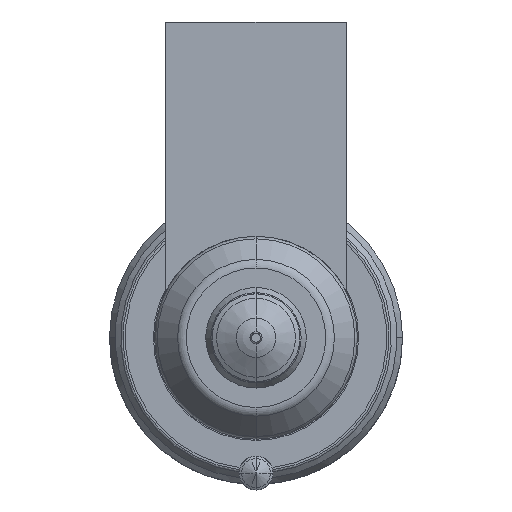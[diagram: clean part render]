
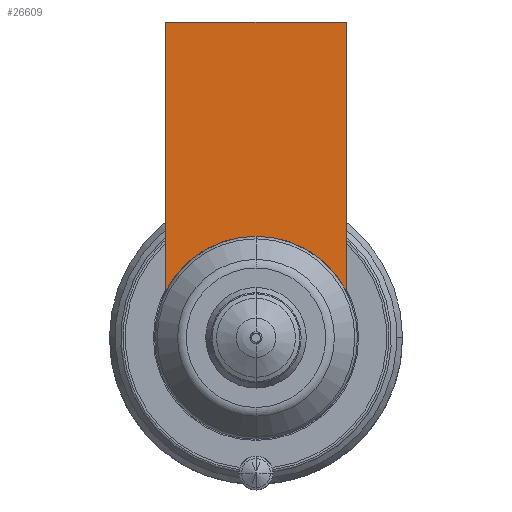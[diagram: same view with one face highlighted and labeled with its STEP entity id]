
A CAD part, front view. The second image highlights one B-rep face of the part: STEP entity #26609.
In plain terms, the highlighted planar face has unit normal (0, -1, 0).
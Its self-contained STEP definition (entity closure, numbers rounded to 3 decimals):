
#25726=DIRECTION('',(1.,0.,0.));
#25727=VECTOR('',#25726,16.);
#25728=CARTESIAN_POINT('',(-8.,-54.,28.));
#25729=LINE('',#25728,#25727);
#25734=CARTESIAN_POINT('',(0.,-54.,0.));
#25735=DIRECTION('',(0.,-1.,0.));
#25736=DIRECTION('',(0.889,0.,0.458));
#25737=AXIS2_PLACEMENT_3D('',#25734,#25735,#25736);
#25742=CARTESIAN_POINT('',(0.,-54.,0.));
#25743=DIRECTION('',(0.,-1.,0.));
#25744=DIRECTION('',(0.,0.,1.));
#25745=AXIS2_PLACEMENT_3D('',#25742,#25743,#25744);
#25771=DIRECTION('',(0.,0.,-1.));
#25772=VECTOR('',#25771,23.877);
#25773=CARTESIAN_POINT('',(-8.,-54.,28.));
#25774=LINE('',#25773,#25772);
#26453=DIRECTION('',(0.,0.,-1.));
#26454=VECTOR('',#26453,23.877);
#26455=CARTESIAN_POINT('',(8.,-54.,28.));
#26456=LINE('',#26455,#26454);
#26506=CARTESIAN_POINT('',(-8.,-54.,28.));
#26507=VERTEX_POINT('',#26506);
#26512=CARTESIAN_POINT('',(8.,-54.,28.));
#26513=VERTEX_POINT('',#26512);
#26516=CARTESIAN_POINT('',(-8.,-54.,4.123));
#26517=VERTEX_POINT('',#26516);
#26520=CARTESIAN_POINT('',(8.,-54.,4.123));
#26521=VERTEX_POINT('',#26520);
#26590=CARTESIAN_POINT('',(0.,-54.,9.));
#26591=VERTEX_POINT('',#26590);
#26592=CARTESIAN_POINT('',(0.,-54.,9.));
#26593=DIRECTION('',(0.,1.,0.));
#26594=DIRECTION('',(0.,0.,-1.));
#26595=AXIS2_PLACEMENT_3D('',#26592,#26593,#26594);
#26596=PLANE('',#26595);
#26598=ORIENTED_EDGE('',*,*,#26597,.F.);
#26600=ORIENTED_EDGE('',*,*,#26599,.T.);
#26602=ORIENTED_EDGE('',*,*,#26601,.T.);
#26604=ORIENTED_EDGE('',*,*,#26603,.T.);
#26606=ORIENTED_EDGE('',*,*,#26605,.T.);
#26607=EDGE_LOOP('',(#26598,#26600,#26602,#26604,#26606));
#26608=FACE_OUTER_BOUND('',#26607,.F.);
#26609=ADVANCED_FACE('',(#26608),#26596,.F.);
#25738=CIRCLE('',#25737,9.);
#25746=CIRCLE('',#25745,9.);
#26597=EDGE_CURVE('',#26507,#26517,#25774,.T.);
#26599=EDGE_CURVE('',#26507,#26513,#25729,.T.);
#26601=EDGE_CURVE('',#26513,#26521,#26456,.T.);
#26603=EDGE_CURVE('',#26521,#26591,#25738,.T.);
#26605=EDGE_CURVE('',#26591,#26517,#25746,.T.);
